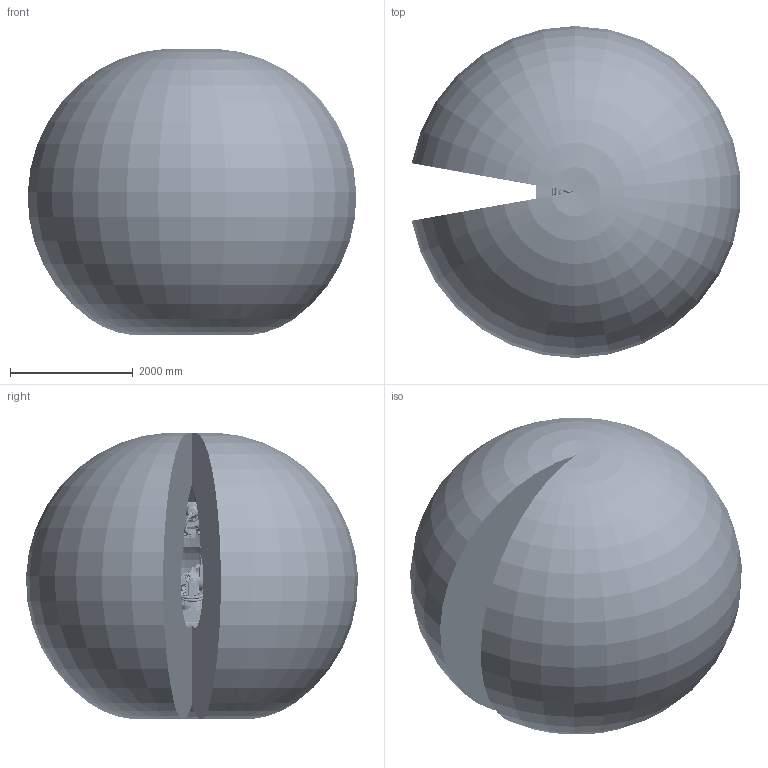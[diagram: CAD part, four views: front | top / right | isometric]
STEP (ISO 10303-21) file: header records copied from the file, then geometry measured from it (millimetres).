
FILE_DESCRIPTION (( 'STEP AP214' ), '1' );
FILE_NAME ('IRB5710-LID-MH_70kg-270_OC_02_ASM.step', '2025-07-07T14:09:22', ( '' ), ( '' ), 'SwSTEP 2.0', 'SolidWorks 2024', '' );
FILE_SCHEMA (( 'AUTOMOTIVE_DESIGN' ));
Length unit declared in the file: millimetre
Products named in the file (18): IRB5710-LID_70kg-270_OmniCore_rev01_LINK03_CAD; IRB5710-LID-MH_70kg-270_OC_02_ASM; IRB5710-LID_70kg-270_OmniCore_rev00_LINK05_CABLE; IRB5710-LID_70kg-270_OC_01_LINK04_CABLE; IRB5710-LID-MH_70kg-270_OC_00_LINK03a_CABLE; IRB5710-LID_70kg-270_OC_00_BASE_CAD; IRB5710-LID_70kg-270_OC_00_Working-space_CAD; IRB5710-LID_70kg-270_OmniCore_rev00_LINK02_CAD; IRB5710-LID-MH_70kg-270_OC_00_LINK02_CABLE; IRB5710-LID-MH_70kg-270_OC_01_LINK03b_CABLE; IRB5710-LID_70kg-270_OmniCore_rev00_LINK06_CABLE; IRB5710-LID_70kg-270_OmniCore_rev00_LINK01m_CABLE; IRB5710-LID_70kg-270_OmniCore_rev00_LINK02m_CABLE; IRB5710-LID_70kg-270_OmniCore_rev00_LINK05_CAD; IRB5710-LID_70kg-270_OmniCore_rev00_LINK01_CAD; IRB5710-LID_70kg-270_OmniCore_rev00_LINK04_CAD; IRB5710-LID_70kg-270_OmniCore_rev00_LINK03m_CABLE; IRB5710-LID-MH_70kg-270_OC_00_LINK01_CABLE
Assembly tree (17 placements, depth 2):
  IRB5710-LID-MH_70kg-270_OC_02_ASM
    IRB5710-LID_70kg-270_OC_00_BASE_CAD
    IRB5710-LID_70kg-270_OmniCore_rev00_LINK01_CAD
    IRB5710-LID_70kg-270_OmniCore_rev00_LINK02_CAD
    IRB5710-LID_70kg-270_OmniCore_rev01_LINK03_CAD
    IRB5710-LID_70kg-270_OmniCore_rev00_LINK04_CAD
    IRB5710-LID_70kg-270_OmniCore_rev00_LINK05_CAD
    IRB5710-LID_70kg-270_OmniCore_rev00_LINK01m_CABLE
    IRB5710-LID_70kg-270_OmniCore_rev00_LINK02m_CABLE
    IRB5710-LID_70kg-270_OmniCore_rev00_LINK03m_CABLE
    IRB5710-LID-MH_70kg-270_OC_00_LINK01_CABLE
    IRB5710-LID-MH_70kg-270_OC_00_LINK02_CABLE
    IRB5710-LID-MH_70kg-270_OC_00_LINK03a_CABLE
    IRB5710-LID-MH_70kg-270_OC_01_LINK03b_CABLE
    IRB5710-LID_70kg-270_OC_01_LINK04_CABLE
    IRB5710-LID_70kg-270_OmniCore_rev00_LINK05_CABLE
    IRB5710-LID_70kg-270_OmniCore_rev00_LINK06_CABLE
    IRB5710-LID_70kg-270_OC_00_Working-space_CAD
Bounding box: 5343.74 x 5399.54 x 4662.82 mm (x, y, z)
Volume: 67956998690.7 mm3; surface area: 123389153 mm2
Topology: 23 solids, 85 shells, 8310 faces, 20950 edges, 13303 vertices
Faces by surface type: plane 3668, cylinder 2350, cone 986, bspline 869, torus 363, sphere 74
Entity records: 404532 total; most frequent: CARTESIAN_POINT 178744, ORIENTED_EDGE 41378, DIRECTION 38005, EDGE_CURVE 20689, AXIS2_PLACEMENT_3D 14067, VERTEX_POINT 13295, LINE 9871, VECTOR 9871
